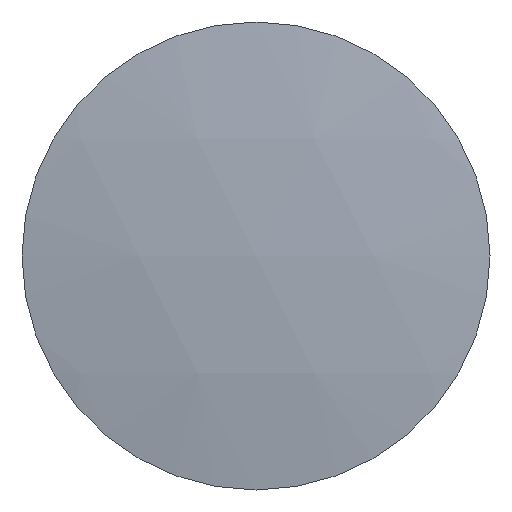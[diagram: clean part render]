
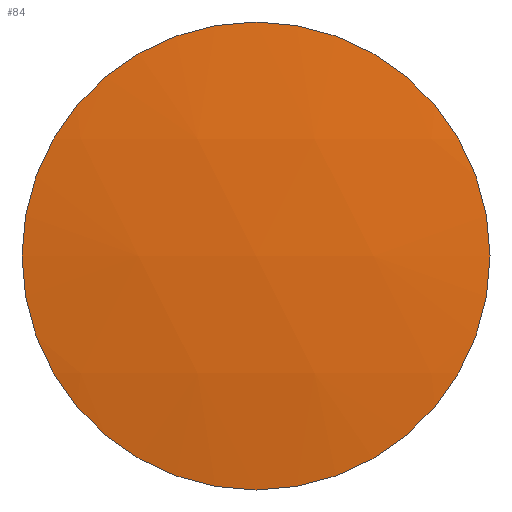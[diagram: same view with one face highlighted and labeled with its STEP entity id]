
A CAD part, front view. The second image highlights one B-rep face of the part: STEP entity #84.
In plain terms, the highlighted spherical face has radius 129.75 mm.
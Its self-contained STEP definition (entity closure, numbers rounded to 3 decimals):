
#68=CARTESIAN_POINT('',(0.0,126.15,0.0));
#69=DIRECTION('',(0.0,0.0,1.0));
#70=DIRECTION('',(1.0,0.0,0.0));
#71=AXIS2_PLACEMENT_3D('',#68,#69,#70);
#72=SPHERICAL_SURFACE('',#71,129.75);
#73=CARTESIAN_POINT('',(-20.,-2.049,0.0));
#74=VERTEX_POINT('',#73);
#75=CARTESIAN_POINT('',(0.0,-2.049,0.0));
#76=DIRECTION('',(0.0,1.0,0.0));
#77=DIRECTION('',(-1.0,0.0,0.0));
#78=AXIS2_PLACEMENT_3D('',#75,#76,#77);
#79=CIRCLE('',#78,20.);
#80=EDGE_CURVE('',#74,#74,#79,.T.);
#81=ORIENTED_EDGE('',*,*,#80,.F.);
#82=EDGE_LOOP('',(#81));
#83=FACE_OUTER_BOUND('',#82,.T.);
#84=ADVANCED_FACE('',(#83),#72,.T.);
